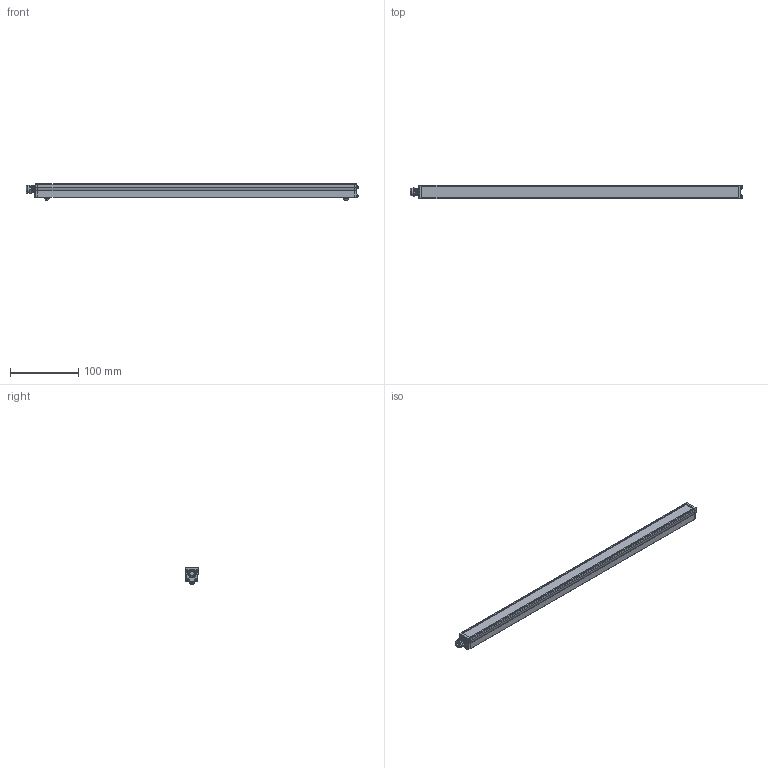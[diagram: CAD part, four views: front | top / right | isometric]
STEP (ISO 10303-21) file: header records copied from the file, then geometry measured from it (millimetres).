
FILE_DESCRIPTION (( 'STEP AP214' ), '1' );
FILE_NAME ('AL126 _NONSEALED__AL12618.stp', '2021-04-29T14:25:07', ( '' ), ( '' ), 'SwSTEP 2.0', 'SolidWorks 2018', '' );
FILE_SCHEMA (( 'AUTOMOTIVE_DESIGN' ));
Length unit declared in the file: inch
Products named in the file (15): 090889-XX_090889-18; 10mm Label (116 126)_Default<As Machined>; AL126 _NONSEALED__AL12618; 10mm Ai; 093474_093474; 090877-XX_090877-18; 090876; 091052 (116 126); BH-M4x6; 093469_093469; 10mm Advanced illumination; 091064_Model_Dome Fittings_Thread Type and Size(Dome)_M10 x 1.5_Hazardous Location-Explosive Proof(ATEX and EExe Versions)_No_; HN-M4_90592A016; 10mm Swish_Default<As Machined>; 090875
Assembly tree (24 placements, depth 3):
  AL126 _NONSEALED__AL12618
    090889-XX_090889-18
    090877-XX_090877-18
    090875
    090876
    093474_093474  x8
    093469_093469  x2
    091064_Model_Dome Fittings_Thread Type and Size(Dome)_M10 x 1.5_Hazardous Location-Explosive Proof(ATEX and EExe Versions)_No_
    HN-M4_90592A016  x2
    BH-M4x6  x2
    091052 (116 126)
      10mm Label (116 126)_Default<As Machined>
      10mm Ai
      10mm Swish_Default<As Machined>
      10mm Advanced illumination
Bounding box: 486.33 x 20.02 x 24.1 mm (x, y, z)
Volume: 65571.1 mm3; surface area: 93957 mm2
Topology: 48 solids, 48 shells, 1877 faces, 4840 edges, 3010 vertices
Faces by surface type: cylinder 934, plane 401, cone 362, bspline 120, torus 60
Entity records: 30293 total; most frequent: CARTESIAN_POINT 10456, ORIENTED_EDGE 4076, DIRECTION 3580, EDGE_CURVE 2038, VERTEX_POINT 1298, AXIS2_PLACEMENT_3D 1276, LINE 1028, VECTOR 1028
